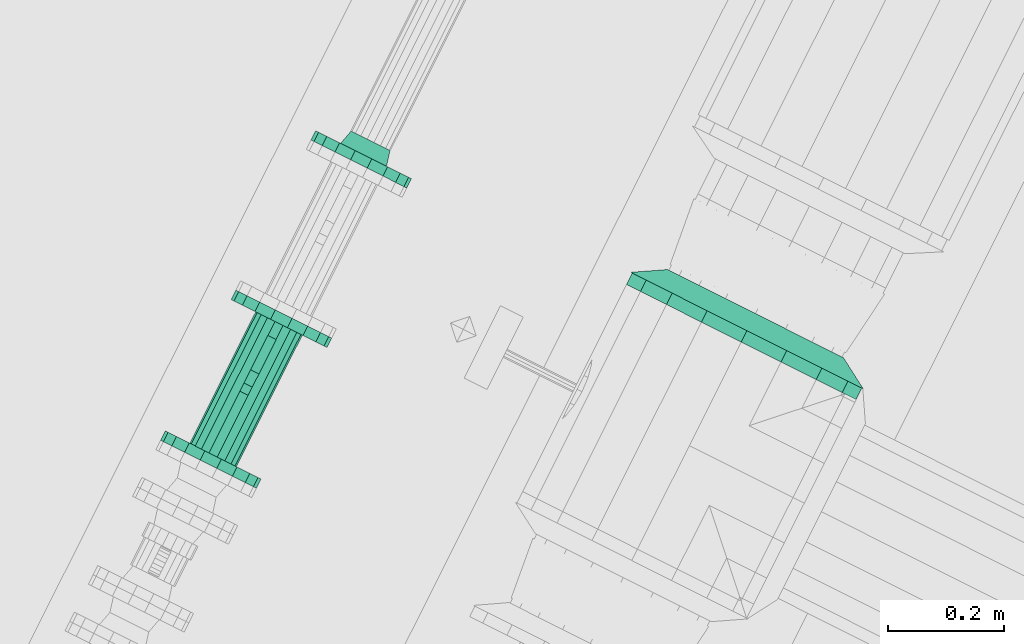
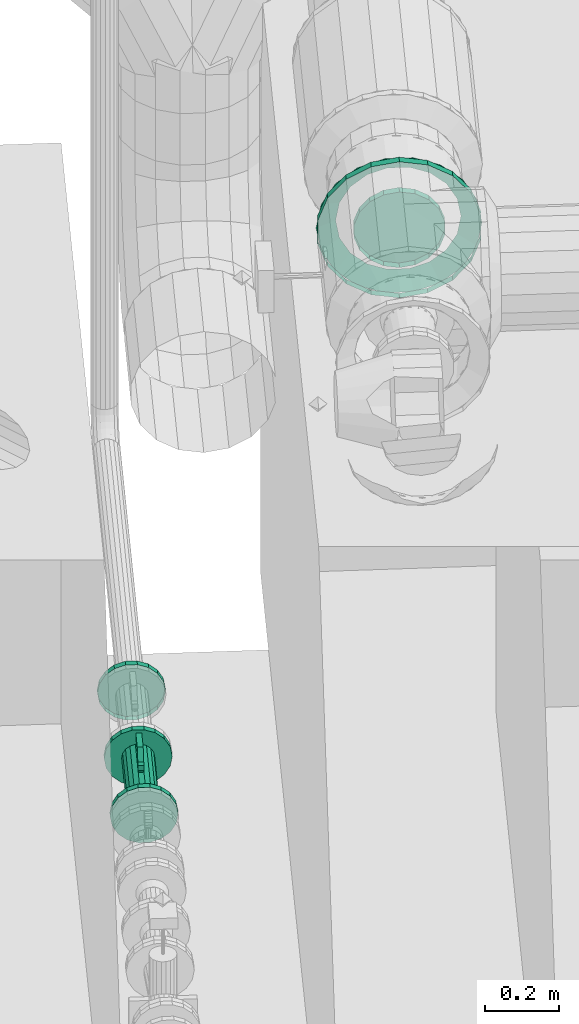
# One storey, part 115 of 206: 2 flow fittings, 1 flow controller.
"""IFC2X3 building model written with IfcOpenShell, lengths in metres."""

from ifc_helpers import new_model, si_unit, derived_unit, direction, frame, origin, place, context, subcontext, project, spatial, face_set, surface_model, source, transform, mapped, material, type_object, type_shapes, element, save


model = new_model("IFC2X3")

# Units and contexts
model_context = context("Model", 3, precision=5.2338327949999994e-05, world=origin(), true_north=direction((0.0, 1.0)))
body_context = subcontext(model_context, "Body", "Model", "MODEL_VIEW")
ifc_project = project(units=[si_unit("LENGTHUNIT", "METRE"), si_unit("AREAUNIT", "SQUARE_METRE"), si_unit("VOLUMEUNIT", "CUBIC_METRE"), si_unit("MASSUNIT", "GRAM", prefix="KILO"), si_unit("PLANEANGLEUNIT", "RADIAN"), derived_unit("THERMALTRANSMITTANCEUNIT", [(si_unit("MASSUNIT", "GRAM", prefix="KILO"), 1), (si_unit("THERMODYNAMICTEMPERATUREUNIT", "KELVIN"), -1), (si_unit("TIMEUNIT", "SECOND"), -3)])], contexts=[model_context])

# Site, building, storey
site_placement = place(None, frame((0.0, 0.0, 0.0), z_axis=(0.0, 0.0, 1.0), x_axis=(0.8939966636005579, -0.4480736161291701, 0.0)))
site = spatial("IfcSite", under=ifc_project, at=site_placement, Name="Default", CompositionType="ELEMENT")
building_placement = place(site_placement, origin())
building = spatial("IfcBuilding", under=site, at=building_placement, CompositionType="ELEMENT")
storey_placement = place(building_placement, origin())
storey = spatial("IfcBuildingStorey", under=building, at=storey_placement, Name="Erdgeschoss", CompositionType="ELEMENT", Elevation=0.0)

# Flow fitting
ifc_material_1 = material(Name="IfcSurfaceStyle #1741")
distribution_element_type_1 = type_object("IfcDistributionElementType", Name="Flansch 320155:Flansch 320155", material=ifc_material_1)
shared_shape_1 = source(origin(), body_context, "Body", "SurfaceModel", [
    surface_model("IfcFaceBasedSurfaceModel", [(23.08485389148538, 6.8589610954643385, 2.479), (23.127606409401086, 6.8589610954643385, 2.471461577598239), (23.127606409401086, 6.88096109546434, 2.471461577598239), (23.08485389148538, 6.88096109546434, 2.479), (23.165202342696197, 6.8589610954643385, 2.4497555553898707), (23.165202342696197, 6.88096109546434, 2.4497555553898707), (23.19310706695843, 6.8589610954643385, 2.416499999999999), (23.19310706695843, 6.88096109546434, 2.416499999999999), (23.2079548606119, 6.8589610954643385, 2.375706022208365), (23.2079548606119, 6.88096109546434, 2.375706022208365), (23.2079548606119, 6.8589610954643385, 2.3322939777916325), (23.2079548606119, 6.88096109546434, 2.3322939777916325), (23.19310706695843, 6.8589610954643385, 2.2914999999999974), (23.19310706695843, 6.88096109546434, 2.2914999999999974), (23.165202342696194, 6.8589610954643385, 2.258244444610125), (23.165202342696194, 6.88096109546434, 2.258244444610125), (23.127606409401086, 6.8589610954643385, 2.236538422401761), (23.127606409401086, 6.88096109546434, 2.236538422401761), (23.084853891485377, 6.8589610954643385, 2.2290000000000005), (23.084853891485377, 6.88096109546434, 2.2290000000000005), (23.042101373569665, 6.8589610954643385, 2.236538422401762), (23.042101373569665, 6.88096109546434, 2.236538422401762), (23.004505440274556, 6.8589610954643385, 2.2582444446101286), (23.004505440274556, 6.88096109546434, 2.2582444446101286), (22.97660071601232, 6.8589610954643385, 2.291499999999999), (22.97660071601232, 6.88096109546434, 2.291499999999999), (22.96175292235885, 6.8589610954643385, 2.3322939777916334), (22.96175292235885, 6.88096109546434, 2.3322939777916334), (22.96175292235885, 6.8589610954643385, 2.375706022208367), (22.96175292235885, 6.88096109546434, 2.375706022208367), (22.97660071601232, 6.8589610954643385, 2.416500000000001), (22.97660071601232, 6.88096109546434, 2.416500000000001), (23.004505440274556, 6.8589610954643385, 2.449755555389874), (23.004505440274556, 6.88096109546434, 2.449755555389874), (23.042101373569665, 6.8589610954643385, 2.471461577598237), (23.042101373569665, 6.88096109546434, 2.471461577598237), (23.08485389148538, 6.880961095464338, 2.3540000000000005), (23.162853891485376, 6.88096109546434, 2.353999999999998), (23.158149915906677, 6.88096109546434, 2.327322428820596), (23.150491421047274, 6.913961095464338, 2.330109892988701), (23.154703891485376, 6.913961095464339, 2.3539999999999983), (23.14460535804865, 6.88096109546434, 2.303862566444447), (23.138362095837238, 6.913961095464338, 2.3091012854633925), (23.123853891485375, 6.88096109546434, 2.286450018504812), (23.119778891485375, 6.913961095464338, 2.293508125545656), (23.098398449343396, 6.88096109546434, 2.2771849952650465), (23.09698321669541, 6.913961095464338, 2.285211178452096), (23.071309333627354, 6.88096109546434, 2.277184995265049), (23.072724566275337, 6.913961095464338, 2.2852111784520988), (23.045853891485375, 6.88096109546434, 2.286450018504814), (23.049928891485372, 6.913961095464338, 2.293508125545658), (23.02510242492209, 6.88096109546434, 2.30386256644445), (23.031345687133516, 6.913961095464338, 2.309101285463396), (23.01155786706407, 6.88096109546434, 2.3273224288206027), (23.01921636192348, 6.913961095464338, 2.330109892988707), (23.00685389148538, 6.88096109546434, 2.3540000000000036), (23.015003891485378, 6.913961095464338, 2.3540000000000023), (23.011557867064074, 6.88096109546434, 2.3806775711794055), (23.019216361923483, 6.913961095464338, 2.377890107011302), (23.025102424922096, 6.88096109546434, 2.404137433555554), (23.031345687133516, 6.913961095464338, 2.398898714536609), (23.045853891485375, 6.88096109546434, 2.4215499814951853), (23.049928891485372, 6.913961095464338, 2.4144918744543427), (23.071309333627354, 6.88096109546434, 2.430815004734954), (23.07272456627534, 6.913961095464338, 2.422788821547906), (23.098398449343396, 6.88096109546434, 2.4308150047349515), (23.09698321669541, 6.913961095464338, 2.422788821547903), (23.123853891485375, 6.88096109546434, 2.421549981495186), (23.119778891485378, 6.913961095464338, 2.4144918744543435), (23.144605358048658, 6.88096109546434, 2.404137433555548), (23.138362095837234, 6.913961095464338, 2.3988987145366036), (23.15814991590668, 6.88096109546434, 2.3806775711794), (23.150491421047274, 6.913961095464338, 2.3778901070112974), (23.08485389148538, 6.8589610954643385, 2.5790000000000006), (23.161808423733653, 6.8589610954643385, 2.565430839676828), (23.161808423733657, 6.88096109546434, 2.5654308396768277), (23.084853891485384, 6.88096109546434, 2.579), (23.229481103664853, 6.8589610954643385, 2.5263599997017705), (23.229481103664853, 6.88096109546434, 2.5263599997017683), (23.279709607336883, 6.8589610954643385, 2.466499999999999), (23.279709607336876, 6.88096109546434, 2.466499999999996), (23.30643563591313, 6.8589610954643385, 2.393070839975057), (23.306435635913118, 6.88096109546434, 2.393070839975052), (23.30643563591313, 6.8589610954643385, 2.3149291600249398), (23.306435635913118, 6.88096109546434, 2.314929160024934), (23.27970960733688, 6.8589610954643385, 2.241499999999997), (23.279709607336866, 6.88096109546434, 2.2414999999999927), (23.229481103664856, 6.8589610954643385, 2.1816400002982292), (23.229481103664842, 6.88096109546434, 2.1816400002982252), (23.161808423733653, 6.8589610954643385, 2.14256916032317), (23.161808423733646, 6.88096109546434, 2.1425691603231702), (23.084853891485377, 6.8589610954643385, 2.128999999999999), (23.084853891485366, 6.88096109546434, 2.129000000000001), (23.007899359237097, 6.8589610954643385, 2.1425691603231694), (23.007899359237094, 6.88096109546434, 2.1425691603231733), (22.9402266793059, 6.8589610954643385, 2.1816400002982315), (22.940226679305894, 6.88096109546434, 2.1816400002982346), (22.889998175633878, 6.8589610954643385, 2.241499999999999), (22.88999817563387, 6.88096109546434, 2.241500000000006), (22.863272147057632, 6.8589610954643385, 2.314929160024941), (22.86327214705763, 6.88096109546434, 2.314929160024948), (22.86327214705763, 6.8589610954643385, 2.3930708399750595), (22.863272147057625, 6.88096109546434, 2.393070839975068), (22.889998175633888, 6.8589610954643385, 2.466499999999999), (22.88999817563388, 6.88096109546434, 2.4665000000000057), (22.94022667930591, 6.8589610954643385, 2.5263599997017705), (22.94022667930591, 6.88096109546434, 2.5263599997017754), (23.007899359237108, 6.8589610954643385, 2.5654308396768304), (23.007899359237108, 6.88096109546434, 2.5654308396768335), (23.30985389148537, 6.88096109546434, 2.353999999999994), (23.296284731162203, 6.88096109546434, 2.2770454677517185), (23.244460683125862, 6.913961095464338, 2.2959078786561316), (23.254703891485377, 6.913961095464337, 2.3539999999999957), (23.25721389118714, 6.880961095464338, 2.209372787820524), (23.214966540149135, 6.913961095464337, 2.2448225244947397), (23.197353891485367, 6.88096109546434, 2.1591442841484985), (23.16977889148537, 6.913961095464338, 2.2069055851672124), (23.123924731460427, 6.88096109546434, 2.1324182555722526), (23.1143480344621, 6.913961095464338, 2.1867304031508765), (23.04578305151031, 6.88096109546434, 2.1324182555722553), (23.055359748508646, 6.913961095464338, 2.1867304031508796), (22.972353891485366, 6.88096109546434, 2.159144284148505), (22.999928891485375, 6.913961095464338, 2.2069055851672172), (22.9124938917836, 6.880961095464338, 2.2093727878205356), (22.954741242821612, 6.913961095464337, 2.244822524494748), (22.87342305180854, 6.8809610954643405, 2.2770454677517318), (22.925247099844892, 6.913961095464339, 2.295907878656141), (22.859853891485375, 6.880961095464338, 2.354000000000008), (22.91500389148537, 6.913961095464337, 2.354000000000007), (22.873423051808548, 6.8809610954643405, 2.430954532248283), (22.925247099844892, 6.913961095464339, 2.4120921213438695), (22.91249389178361, 6.8809610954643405, 2.498627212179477), (22.954741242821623, 6.913961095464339, 2.463177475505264), (22.97235389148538, 6.880961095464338, 2.5488557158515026), (22.99992889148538, 6.913961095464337, 2.5010944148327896), (23.04578305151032, 6.88096109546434, 2.5755817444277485), (23.05535974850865, 6.913961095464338, 2.5212695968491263), (23.12392473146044, 6.88096109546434, 2.5755817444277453), (23.114348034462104, 6.913961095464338, 2.521269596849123), (23.19735389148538, 6.88096109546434, 2.5488557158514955), (23.169778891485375, 6.913961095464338, 2.5010944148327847), (23.257213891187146, 6.88096109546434, 2.4986272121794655), (23.214966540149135, 6.913961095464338, 2.4631774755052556), (23.29628473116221, 6.88096109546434, 2.4309545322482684), (23.244460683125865, 6.913961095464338, 2.412092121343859)], [face_set([[[0, 1, 2, 3]], [[1, 4, 5, 2]], [[4, 6, 7, 5]], [[6, 8, 9, 7]], [[8, 10, 11, 9]], [[10, 12, 13, 11]], [[12, 14, 15, 13]], [[14, 16, 17, 15]], [[16, 18, 19, 17]], [[18, 20, 21, 19]], [[20, 22, 23, 21]], [[22, 24, 25, 23]], [[24, 26, 27, 25]], [[26, 28, 29, 27]], [[28, 30, 31, 29]], [[30, 32, 33, 31]], [[32, 34, 35, 33]], [[34, 0, 3, 35]], [[36, 35, 3]], [[36, 33, 35]], [[36, 31, 33]], [[36, 29, 31]], [[36, 27, 29]], [[36, 25, 27]], [[36, 23, 25]], [[36, 21, 23]], [[36, 19, 21]], [[36, 17, 19]], [[36, 15, 17]], [[36, 13, 15]], [[36, 11, 13]], [[36, 9, 11]], [[36, 7, 9]], [[36, 5, 7]], [[36, 2, 5]], [[36, 3, 2]], [[37, 38, 39, 40]], [[38, 41, 42, 39]], [[41, 43, 44, 42]], [[43, 45, 46, 44]], [[45, 47, 48, 46]], [[47, 49, 50, 48]], [[49, 51, 52, 50]], [[51, 53, 54, 52]], [[53, 55, 56, 54]], [[55, 57, 58, 56]], [[57, 59, 60, 58]], [[59, 61, 62, 60]], [[61, 63, 64, 62]], [[63, 65, 66, 64]], [[65, 67, 68, 66]], [[67, 69, 70, 68]], [[69, 71, 72, 70]], [[71, 37, 40, 72]], [[73, 74, 75, 76]], [[74, 77, 78, 75]], [[77, 79, 80, 78]], [[79, 81, 82, 80]], [[81, 83, 84, 82]], [[83, 85, 86, 84]], [[85, 87, 88, 86]], [[87, 89, 90, 88]], [[89, 91, 92, 90]], [[91, 93, 94, 92]], [[93, 95, 96, 94]], [[95, 97, 98, 96]], [[97, 99, 100, 98]], [[99, 101, 102, 100]], [[101, 103, 104, 102]], [[103, 105, 106, 104]], [[105, 107, 108, 106]], [[107, 73, 76, 108]], [[109, 110, 111, 112]], [[110, 113, 114, 111]], [[113, 115, 116, 114]], [[115, 117, 118, 116]], [[117, 119, 120, 118]], [[119, 121, 122, 120]], [[121, 123, 124, 122]], [[123, 125, 126, 124]], [[125, 127, 128, 126]], [[127, 129, 130, 128]], [[129, 131, 132, 130]], [[131, 133, 134, 132]], [[133, 135, 136, 134]], [[135, 137, 138, 136]], [[137, 139, 140, 138]], [[139, 141, 142, 140]], [[141, 143, 144, 142]], [[143, 109, 112, 144]]])]),
])
type_shapes(distribution_element_type_1, [shared_shape_1])
flow_fitting_1_placement = place(storey_placement, origin())
element("IfcFlowFitting", 1, at=flow_fitting_1_placement, inside=storey, type_object=distribution_element_type_1, material=ifc_material_1, Name="Flansch", ObjectType="Flansch", context=body_context, shape_type="MappedRepresentation", body=[
    mapped(shared_shape_1, transform((0.0, 0.0, 0.0), scale=1.0)),
])

# Flow controller
ifc_material_2 = material(Name="IfcSurfaceStyle #352577")
distribution_element_type_2 = type_object("IfcDistributionElementType", Name="Absperrklappe 355806:Absperrklappe 355806", material=ifc_material_2)
shared_shape_2 = source(origin(), body_context, "Body", "SurfaceModel", [
    surface_model("IfcFaceBasedSurfaceModel", [(22.34876673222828, 6.410958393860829, 0.9219999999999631), (22.34876673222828, 6.39495839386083, 0.9219999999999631), (22.364766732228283, 6.39495839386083, 0.9219999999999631), (22.364766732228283, 6.410958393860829, 0.9219999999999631), (22.34876673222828, 6.39495839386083, 0.9379999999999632), (22.364766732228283, 6.39495839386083, 0.9379999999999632), (22.34876673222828, 6.410958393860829, 0.9379999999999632), (22.364766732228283, 6.410958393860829, 0.9379999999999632), (22.34876673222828, 6.436291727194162, 0.9699999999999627), (22.364766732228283, 6.436291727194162, 0.9699999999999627), (22.34876673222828, 6.502958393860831, 0.9699999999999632), (22.364766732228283, 6.502958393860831, 0.9699999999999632), (22.34876673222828, 6.502958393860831, 0.9539999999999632), (22.364766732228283, 6.502958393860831, 0.9539999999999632), (22.34876673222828, 6.436291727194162, 0.9539999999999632), (22.364766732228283, 6.436291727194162, 0.9539999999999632), (22.264266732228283, 6.25795839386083, 0.8699999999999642), (22.269845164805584, 6.25795839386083, 0.9016368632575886), (22.269845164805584, 6.27595839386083, 0.9016368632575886), (22.264266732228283, 6.27595839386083, 0.8699999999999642), (22.28590762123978, 6.25795839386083, 0.9294578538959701), (22.28590762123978, 6.27595839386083, 0.9294578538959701), (22.310516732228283, 6.25795839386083, 0.9501073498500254), (22.310516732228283, 6.27595839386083, 0.9501073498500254), (22.340704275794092, 6.25795839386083, 0.9610947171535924), (22.340704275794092, 6.27595839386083, 0.9610947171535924), (22.372829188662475, 6.25795839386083, 0.9610947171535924), (22.372829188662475, 6.27595839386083, 0.9610947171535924), (22.40301673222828, 6.25795839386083, 0.9501073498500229), (22.40301673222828, 6.27595839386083, 0.9501073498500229), (22.427625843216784, 6.25795839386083, 0.9294578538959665), (22.427625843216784, 6.27595839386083, 0.9294578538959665), (22.44368829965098, 6.25795839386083, 0.9016368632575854), (22.44368829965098, 6.27595839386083, 0.9016368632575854), (22.449266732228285, 6.25795839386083, 0.869999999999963), (22.449266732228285, 6.27595839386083, 0.869999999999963), (22.44368829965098, 6.25795839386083, 0.8383631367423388), (22.44368829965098, 6.27595839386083, 0.8383631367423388), (22.427625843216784, 6.25795839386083, 0.8105421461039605), (22.427625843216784, 6.27595839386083, 0.8105421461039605), (22.40301673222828, 6.25795839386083, 0.7898926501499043), (22.40301673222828, 6.27595839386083, 0.7898926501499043), (22.372829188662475, 6.25795839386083, 0.7789052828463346), (22.372829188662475, 6.27595839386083, 0.7789052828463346), (22.340704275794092, 6.25795839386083, 0.7789052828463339), (22.340704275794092, 6.27595839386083, 0.7789052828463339), (22.310516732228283, 6.25795839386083, 0.7898926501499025), (22.310516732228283, 6.27595839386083, 0.7898926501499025), (22.28590762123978, 6.25795839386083, 0.8105421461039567), (22.28590762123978, 6.27595839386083, 0.8105421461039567), (22.269845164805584, 6.25795839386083, 0.8383631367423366), (22.269845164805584, 6.27595839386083, 0.8383631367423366), (22.356766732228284, 6.25795839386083, 0.869999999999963), (22.356766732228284, 6.27595839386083, 0.869999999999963), (22.311766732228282, 6.27595839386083, 0.869999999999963), (22.314480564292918, 6.27595839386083, 0.8853909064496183), (22.314480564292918, 6.529958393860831, 0.8853909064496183), (22.311766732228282, 6.529958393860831, 0.869999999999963), (22.322294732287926, 6.27595839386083, 0.8989254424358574), (22.322294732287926, 6.529958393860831, 0.8989254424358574), (22.33426673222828, 6.27595839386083, 0.9089711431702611), (22.33426673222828, 6.529958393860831, 0.9089711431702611), (22.34895256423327, 6.27595839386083, 0.9143163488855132), (22.34895256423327, 6.529958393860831, 0.9143163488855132), (22.364580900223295, 6.27595839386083, 0.9143163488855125), (22.364580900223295, 6.529958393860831, 0.9143163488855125), (22.379266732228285, 6.27595839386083, 0.9089711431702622), (22.379266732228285, 6.529958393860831, 0.9089711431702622), (22.391238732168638, 6.27595839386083, 0.8989254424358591), (22.391238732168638, 6.529958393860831, 0.8989254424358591), (22.399052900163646, 6.27595839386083, 0.8853909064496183), (22.399052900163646, 6.529958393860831, 0.8853909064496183), (22.401766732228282, 6.27595839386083, 0.869999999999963), (22.401766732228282, 6.529958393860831, 0.869999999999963), (22.399052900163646, 6.27595839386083, 0.8546090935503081), (22.399052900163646, 6.529958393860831, 0.8546090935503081), (22.391238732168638, 6.27595839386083, 0.8410745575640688), (22.391238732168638, 6.529958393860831, 0.8410745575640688), (22.379266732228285, 6.27595839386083, 0.8310288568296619), (22.379266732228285, 6.529958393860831, 0.8310288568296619), (22.364580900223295, 6.27595839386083, 0.8256836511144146), (22.364580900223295, 6.529958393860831, 0.8256836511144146), (22.34895256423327, 6.27595839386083, 0.8256836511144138), (22.34895256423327, 6.529958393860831, 0.8256836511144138), (22.33426673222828, 6.27595839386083, 0.8310288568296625), (22.33426673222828, 6.529958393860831, 0.8310288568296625), (22.322294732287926, 6.27595839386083, 0.8410745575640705), (22.322294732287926, 6.529958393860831, 0.8410745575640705), (22.314480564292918, 6.27595839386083, 0.8546090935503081), (22.314480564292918, 6.529958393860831, 0.8546090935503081), (22.264266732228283, 6.529958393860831, 0.8699999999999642), (22.269845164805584, 6.529958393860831, 0.9016368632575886), (22.269845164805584, 6.54795839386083, 0.9016368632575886), (22.264266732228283, 6.54795839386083, 0.8699999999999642), (22.28590762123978, 6.529958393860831, 0.9294578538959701), (22.28590762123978, 6.54795839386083, 0.9294578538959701), (22.310516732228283, 6.529958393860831, 0.9501073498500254), (22.310516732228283, 6.54795839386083, 0.9501073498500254), (22.340704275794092, 6.529958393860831, 0.9610947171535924), (22.340704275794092, 6.54795839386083, 0.9610947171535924), (22.372829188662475, 6.529958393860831, 0.9610947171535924), (22.372829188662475, 6.54795839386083, 0.9610947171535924), (22.40301673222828, 6.529958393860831, 0.9501073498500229), (22.40301673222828, 6.54795839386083, 0.9501073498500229), (22.427625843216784, 6.529958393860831, 0.9294578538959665), (22.427625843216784, 6.54795839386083, 0.9294578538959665), (22.44368829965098, 6.529958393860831, 0.9016368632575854), (22.44368829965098, 6.54795839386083, 0.9016368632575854), (22.449266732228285, 6.529958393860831, 0.869999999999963), (22.449266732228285, 6.54795839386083, 0.869999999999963), (22.44368829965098, 6.529958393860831, 0.8383631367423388), (22.44368829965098, 6.54795839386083, 0.8383631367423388), (22.427625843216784, 6.529958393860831, 0.8105421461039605), (22.427625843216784, 6.54795839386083, 0.8105421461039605), (22.40301673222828, 6.529958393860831, 0.7898926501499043), (22.40301673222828, 6.54795839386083, 0.7898926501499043), (22.372829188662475, 6.529958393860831, 0.7789052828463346), (22.372829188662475, 6.54795839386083, 0.7789052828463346), (22.340704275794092, 6.529958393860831, 0.7789052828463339), (22.340704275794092, 6.54795839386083, 0.7789052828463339), (22.310516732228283, 6.529958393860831, 0.7898926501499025), (22.310516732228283, 6.54795839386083, 0.7898926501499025), (22.28590762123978, 6.529958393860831, 0.8105421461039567), (22.28590762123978, 6.54795839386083, 0.8105421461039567), (22.269845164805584, 6.529958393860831, 0.8383631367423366), (22.269845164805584, 6.54795839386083, 0.8383631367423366), (22.356766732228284, 6.52995839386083, 0.869999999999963), (22.356766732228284, 6.54795839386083, 0.869999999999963), (22.356766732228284, 6.410958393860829, 0.869999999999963), (22.351109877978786, 6.408615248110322, 0.869999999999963), (22.351109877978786, 6.408615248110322, 0.9219999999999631), (22.356766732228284, 6.410958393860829, 0.9219999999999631), (22.34876673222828, 6.402958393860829, 0.869999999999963), (22.34876673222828, 6.402958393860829, 0.9219999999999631), (22.351109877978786, 6.397301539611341, 0.869999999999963), (22.351109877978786, 6.397301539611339, 0.9219999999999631), (22.356766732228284, 6.39495839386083, 0.869999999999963), (22.356766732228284, 6.39495839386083, 0.9219999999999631), (22.362423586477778, 6.397301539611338, 0.869999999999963), (22.362423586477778, 6.397301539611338, 0.9219999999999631), (22.364766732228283, 6.402958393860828, 0.869999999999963), (22.364766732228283, 6.402958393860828, 0.9219999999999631), (22.362423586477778, 6.4086152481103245, 0.869999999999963), (22.362423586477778, 6.4086152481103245, 0.9219999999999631)], [face_set([[[0, 1, 2, 3]], [[1, 4, 5, 2]], [[4, 6, 7, 5]], [[6, 8, 9, 7]], [[8, 10, 11, 9]], [[10, 12, 13, 11]], [[12, 14, 15, 13]], [[14, 0, 3, 15]], [[3, 7, 2]], [[7, 3, 9]], [[15, 9, 3]], [[9, 15, 11]], [[13, 11, 15]], [[5, 2, 7]], [[1, 6, 0]], [[8, 0, 6]], [[0, 8, 14]], [[10, 14, 8]], [[14, 10, 12]], [[6, 1, 4]], [[16, 17, 18, 19]], [[17, 20, 21, 18]], [[20, 22, 23, 21]], [[22, 24, 25, 23]], [[24, 26, 27, 25]], [[26, 28, 29, 27]], [[28, 30, 31, 29]], [[30, 32, 33, 31]], [[32, 34, 35, 33]], [[34, 36, 37, 35]], [[36, 38, 39, 37]], [[38, 40, 41, 39]], [[40, 42, 43, 41]], [[42, 44, 45, 43]], [[44, 46, 47, 45]], [[46, 48, 49, 47]], [[48, 50, 51, 49]], [[50, 16, 19, 51]], [[52, 17, 16]], [[52, 20, 17]], [[52, 22, 20]], [[52, 24, 22]], [[52, 26, 24]], [[52, 28, 26]], [[52, 30, 28]], [[52, 32, 30]], [[52, 34, 32]], [[52, 36, 34]], [[52, 38, 36]], [[52, 40, 38]], [[52, 42, 40]], [[52, 44, 42]], [[52, 46, 44]], [[52, 48, 46]], [[52, 50, 48]], [[52, 16, 50]], [[53, 51, 19]], [[53, 49, 51]], [[53, 47, 49]], [[53, 45, 47]], [[53, 43, 45]], [[53, 41, 43]], [[53, 39, 41]], [[53, 37, 39]], [[53, 35, 37]], [[53, 33, 35]], [[53, 31, 33]], [[53, 29, 31]], [[53, 27, 29]], [[53, 25, 27]], [[53, 23, 25]], [[53, 21, 23]], [[53, 18, 21]], [[53, 19, 18]], [[54, 55, 56, 57]], [[55, 58, 59, 56]], [[58, 60, 61, 59]], [[60, 62, 63, 61]], [[62, 64, 65, 63]], [[64, 66, 67, 65]], [[66, 68, 69, 67]], [[68, 70, 71, 69]], [[70, 72, 73, 71]], [[72, 74, 75, 73]], [[74, 76, 77, 75]], [[76, 78, 79, 77]], [[78, 80, 81, 79]], [[80, 82, 83, 81]], [[82, 84, 85, 83]], [[84, 86, 87, 85]], [[86, 88, 89, 87]], [[88, 54, 57, 89]], [[90, 91, 92, 93]], [[91, 94, 95, 92]], [[94, 96, 97, 95]], [[96, 98, 99, 97]], [[98, 100, 101, 99]], [[100, 102, 103, 101]], [[102, 104, 105, 103]], [[104, 106, 107, 105]], [[106, 108, 109, 107]], [[108, 110, 111, 109]], [[110, 112, 113, 111]], [[112, 114, 115, 113]], [[114, 116, 117, 115]], [[116, 118, 119, 117]], [[118, 120, 121, 119]], [[120, 122, 123, 121]], [[122, 124, 125, 123]], [[124, 90, 93, 125]], [[126, 91, 90]], [[126, 94, 91]], [[126, 96, 94]], [[126, 98, 96]], [[126, 100, 98]], [[126, 102, 100]], [[126, 104, 102]], [[126, 106, 104]], [[126, 108, 106]], [[126, 110, 108]], [[126, 112, 110]], [[126, 114, 112]], [[126, 116, 114]], [[126, 118, 116]], [[126, 120, 118]], [[126, 122, 120]], [[126, 124, 122]], [[126, 90, 124]], [[127, 125, 93]], [[127, 123, 125]], [[127, 121, 123]], [[127, 119, 121]], [[127, 117, 119]], [[127, 115, 117]], [[127, 113, 115]], [[127, 111, 113]], [[127, 109, 111]], [[127, 107, 109]], [[127, 105, 107]], [[127, 103, 105]], [[127, 101, 103]], [[127, 99, 101]], [[127, 97, 99]], [[127, 95, 97]], [[127, 92, 95]], [[127, 93, 92]], [[128, 129, 130, 131]], [[129, 132, 133, 130]], [[132, 134, 135, 133]], [[134, 136, 137, 135]], [[136, 138, 139, 137]], [[138, 140, 141, 139]], [[140, 142, 143, 141]], [[142, 128, 131, 143]]])]),
])
type_shapes(distribution_element_type_2, [shared_shape_2])
flow_controller_placement = place(storey_placement, origin())
element("IfcFlowController", 2, at=flow_controller_placement, inside=storey, type_object=distribution_element_type_2, material=ifc_material_2, Name="Absperrklappe", ObjectType="Absperrklappe", context=body_context, shape_type="MappedRepresentation", body=[
    mapped(shared_shape_2, transform((0.0, 0.0, 0.0), scale=1.0)),
])

# Flow fitting
distribution_element_type_3 = type_object("IfcDistributionElementType", Name="Flansch 357950:Flansch 357950", material=ifc_material_2)
shared_shape_3 = source(origin(), body_context, "Body", "SurfaceModel", [
    surface_model("IfcFaceBasedSurfaceModel", [(22.356766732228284, 6.882958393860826, 0.9080499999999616), (22.34375286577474, 6.88295839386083, 0.9057553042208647), (22.341375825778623, 6.85595839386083, 0.9122861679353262), (22.356766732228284, 6.8559583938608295, 0.914999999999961), (22.33230866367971, 6.8829583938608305, 0.8991479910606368), (22.32784128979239, 6.855958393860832, 0.9044719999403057), (22.323814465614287, 6.8829583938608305, 0.8890249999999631), (22.317795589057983, 6.855958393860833, 0.8924999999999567), (22.31929479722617, 6.882958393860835, 0.8766073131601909), (22.312450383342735, 6.855958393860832, 0.8778141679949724), (22.31929479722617, 6.882958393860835, 0.8633926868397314), (22.312450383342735, 6.855958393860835, 0.8621858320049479), (22.32381446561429, 6.882958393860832, 0.8509749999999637), (22.317795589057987, 6.855958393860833, 0.8474999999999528), (22.332308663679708, 6.882958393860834, 0.8408520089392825), (22.327841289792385, 6.855958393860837, 0.8355280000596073), (22.343752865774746, 6.882958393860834, 0.83424469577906), (22.341375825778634, 6.855958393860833, 0.827713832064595), (22.356766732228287, 6.882958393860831, 0.8319499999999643), (22.356766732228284, 6.855958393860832, 0.8249999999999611), (22.369780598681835, 6.8829583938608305, 0.8342446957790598), (22.372157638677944, 6.855958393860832, 0.8277138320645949), (22.38122480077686, 6.882958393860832, 0.8408520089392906), (22.385692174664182, 6.855958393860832, 0.8355280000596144), (22.389718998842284, 6.8829583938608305, 0.8509749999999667), (22.395737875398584, 6.855958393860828, 0.8474999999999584), (22.3942386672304, 6.882958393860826, 0.8633926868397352), (22.40108308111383, 6.85595839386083, 0.8621858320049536), (22.3942386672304, 6.882958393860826, 0.8766073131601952), (22.401083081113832, 6.855958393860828, 0.8778141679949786), (22.389718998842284, 6.882958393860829, 0.8890249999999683), (22.39573787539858, 6.855958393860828, 0.8924999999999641), (22.381224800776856, 6.88295839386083, 0.8991479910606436), (22.38569217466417, 6.855958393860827, 0.9044719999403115), (22.369780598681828, 6.882958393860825, 0.905755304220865), (22.372157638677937, 6.855958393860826, 0.9122861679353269), (22.264266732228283, 6.855958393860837, 0.8699999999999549), (22.26984516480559, 6.855958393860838, 0.8383631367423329), (22.26984516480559, 6.837958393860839, 0.8383631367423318), (22.264266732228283, 6.837958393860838, 0.8699999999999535), (22.285907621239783, 6.8559583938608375, 0.8105421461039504), (22.285907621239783, 6.837958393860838, 0.8105421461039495), (22.310516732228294, 6.8559583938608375, 0.7898926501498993), (22.31051673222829, 6.837958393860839, 0.7898926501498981), (22.340704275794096, 6.8559583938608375, 0.7789052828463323), (22.340704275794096, 6.837958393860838, 0.7789052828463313), (22.37282918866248, 6.855958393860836, 0.7789052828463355), (22.37282918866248, 6.837958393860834, 0.7789052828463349), (22.403016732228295, 6.855958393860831, 0.7898926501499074), (22.40301673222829, 6.837958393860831, 0.7898926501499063), (22.427625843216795, 6.85595839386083, 0.8105421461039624), (22.427625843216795, 6.837958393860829, 0.8105421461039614), (22.44368829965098, 6.855958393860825, 0.8383631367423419), (22.44368829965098, 6.837958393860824, 0.8383631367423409), (22.44926673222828, 6.855958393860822, 0.8699999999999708), (22.44926673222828, 6.837958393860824, 0.8699999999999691), (22.443688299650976, 6.8559583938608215, 0.9016368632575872), (22.443688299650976, 6.837958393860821, 0.9016368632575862), (22.427625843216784, 6.855958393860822, 0.9294578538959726), (22.427625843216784, 6.837958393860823, 0.9294578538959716), (22.403016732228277, 6.855958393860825, 0.9501073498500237), (22.403016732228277, 6.837958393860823, 0.950107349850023), (22.372829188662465, 6.855958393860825, 0.9610947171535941), (22.372829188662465, 6.837958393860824, 0.9610947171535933), (22.340704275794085, 6.855958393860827, 0.9610947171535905), (22.34070427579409, 6.837958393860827, 0.9610947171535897), (22.310516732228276, 6.855958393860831, 0.9501073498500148), (22.310516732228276, 6.83795839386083, 0.9501073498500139), (22.285907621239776, 6.855958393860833, 0.9294578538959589), (22.285907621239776, 6.837958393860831, 0.9294578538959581), (22.269845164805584, 6.855958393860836, 0.9016368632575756), (22.269845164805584, 6.837958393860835, 0.9016368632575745), (22.356766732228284, 6.855958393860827, 0.8699999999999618)], [face_set([[[0, 1, 2, 3]], [[1, 4, 5, 2]], [[4, 6, 7, 5]], [[6, 8, 9, 7]], [[8, 10, 11, 9]], [[10, 12, 13, 11]], [[12, 14, 15, 13]], [[14, 16, 17, 15]], [[16, 18, 19, 17]], [[18, 20, 21, 19]], [[20, 22, 23, 21]], [[22, 24, 25, 23]], [[24, 26, 27, 25]], [[26, 28, 29, 27]], [[28, 30, 31, 29]], [[30, 32, 33, 31]], [[32, 34, 35, 33]], [[34, 0, 3, 35]], [[36, 37, 38, 39]], [[37, 40, 41, 38]], [[40, 42, 43, 41]], [[42, 44, 45, 43]], [[44, 46, 47, 45]], [[46, 48, 49, 47]], [[48, 50, 51, 49]], [[50, 52, 53, 51]], [[52, 54, 55, 53]], [[54, 56, 57, 55]], [[56, 58, 59, 57]], [[58, 60, 61, 59]], [[60, 62, 63, 61]], [[62, 64, 65, 63]], [[64, 66, 67, 65]], [[66, 68, 69, 67]], [[68, 70, 71, 69]], [[70, 36, 39, 71]], [[72, 37, 36]], [[72, 40, 37]], [[72, 42, 40]], [[72, 44, 42]], [[72, 46, 44]], [[72, 48, 46]], [[72, 50, 48]], [[72, 52, 50]], [[72, 54, 52]], [[72, 56, 54]], [[72, 58, 56]], [[72, 60, 58]], [[72, 62, 60]], [[72, 64, 62]], [[72, 66, 64]], [[72, 68, 66]], [[72, 70, 68]], [[72, 36, 70]]])]),
])
type_shapes(distribution_element_type_3, [shared_shape_3])
flow_fitting_2_placement = place(storey_placement, origin())
element("IfcFlowFitting", 3, at=flow_fitting_2_placement, inside=storey, type_object=distribution_element_type_3, material=ifc_material_2, Name="Flansch", ObjectType="Flansch", context=body_context, shape_type="MappedRepresentation", body=[
    mapped(shared_shape_3, transform((0.0, 0.0, 0.0), scale=1.0)),
])

save(model, "model.ifc")
